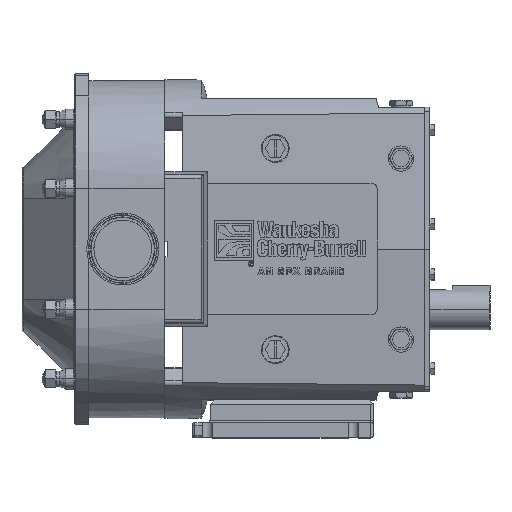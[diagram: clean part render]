
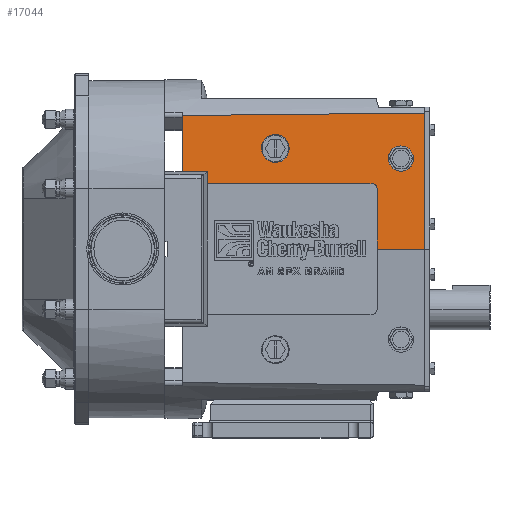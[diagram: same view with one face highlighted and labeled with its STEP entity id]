
A CAD part, top view. The second image highlights one B-rep face of the part: STEP entity #17044.
In plain terms, the highlighted planar face has unit normal (0.009, 0.07, 0.998).
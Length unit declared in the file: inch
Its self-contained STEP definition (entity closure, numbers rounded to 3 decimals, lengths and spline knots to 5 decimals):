
#301 = CARTESIAN_POINT ( 'NONE',  ( 6.19, 5., 4.09621 ) ) ;
#303 = CARTESIAN_POINT ( 'NONE',  ( 6.19, 6.38, 3.99972 ) ) ;
#305 = CARTESIAN_POINT ( 'NONE',  ( 4.81, 6.38, 4.01179 ) ) ;
#307 = CARTESIAN_POINT ( 'NONE',  ( 4.81, 5., 4.10829 ) ) ;
#312 =( BOUNDED_CURVE ( )  B_SPLINE_CURVE ( 3, ( #307, #305, #303, #301 ),
 .UNSPECIFIED., .F., .T. ) 
 B_SPLINE_CURVE_WITH_KNOTS ( ( 4, 4 ),
 ( 1.44634, 4.58793 ),
 .UNSPECIFIED. ) 
 CURVE ( )  GEOMETRIC_REPRESENTATION_ITEM ( )  RATIONAL_B_SPLINE_CURVE ( ( 1., 0.333, 0.333, 1. ) ) 
 REPRESENTATION_ITEM ( '' )  );
#319 = CARTESIAN_POINT ( 'NONE',  ( 4.81, 5., 4.10829 ) ) ;
#322 = CARTESIAN_POINT ( 'NONE',  ( 6.19, 5., 4.09621 ) ) ;
#597 = CARTESIAN_POINT ( 'NONE',  ( 11.125, 3.25, 4.17541 ) ) ;
#599 = CARTESIAN_POINT ( 'NONE',  ( 11.125, 4.5, 4.08801 ) ) ;
#600 =( BOUNDED_CURVE ( )  B_SPLINE_CURVE ( 3, ( #599, #597, #702, #700 ),
 .UNSPECIFIED., .F., .T. ) 
 B_SPLINE_CURVE_WITH_KNOTS ( ( 4, 4 ),
 ( 4.83685, 7.97844 ),
 .UNSPECIFIED. ) 
 CURVE ( )  GEOMETRIC_REPRESENTATION_ITEM ( )  RATIONAL_B_SPLINE_CURVE ( ( 1., 0.333, 0.333, 1. ) ) 
 REPRESENTATION_ITEM ( '' )  );
#602 = CARTESIAN_POINT ( 'NONE',  ( 12.375, 4.5, 4.07707 ) ) ;
#604 = CARTESIAN_POINT ( 'NONE',  ( 11.125, 4.5, 4.08801 ) ) ;
#700 = CARTESIAN_POINT ( 'NONE',  ( 12.375, 4.5, 4.07707 ) ) ;
#702 = CARTESIAN_POINT ( 'NONE',  ( 12.375, 3.25, 4.16448 ) ) ;
#1099 = CARTESIAN_POINT ( 'NONE',  ( 0.875, 6.64153, 4.02792 ) ) ;
#1182 = DIRECTION ( 'NONE',  ( 0., 0.998, -0.07 ) ) ;
#1184 = DIRECTION ( 'NONE',  ( -0.009, -0.07, -0.998 ) ) ;
#1186 = CARTESIAN_POINT ( 'NONE',  ( 0., 8., 3.94059 ) ) ;
#1188 = AXIS2_PLACEMENT_3D ( 'NONE', #1186, #1184, #1182 ) ;
#1190 = PLANE ( 'NONE',  #1188 ) ;
#1192 = FACE_OUTER_BOUND ( 'NONE', #17115, .T. ) ;
#1194 = FACE_BOUND ( 'NONE', #17048, .T. ) ;
#1196 = FACE_BOUND ( 'NONE', #17045, .T. ) ;
#1283 = CARTESIAN_POINT ( 'NONE',  ( 0.875, 3.84, 4.22383 ) ) ;
#1284 = DIRECTION ( 'NONE',  ( 0., 0.998, -0.07 ) ) ;
#1285 = VECTOR ( 'NONE', #1284, 39.37008 ) ;
#1286 = CARTESIAN_POINT ( 'NONE',  ( 0.875, 7.99947, 3.93297 ) ) ;
#1287 = LINE ( 'NONE', #1286, #1285 ) ;
#1313 = DIRECTION ( 'NONE',  ( 1., 0., -0.009 ) ) ;
#1314 = VECTOR ( 'NONE', #1313, 39.37008 ) ;
#1315 = CARTESIAN_POINT ( 'NONE',  ( 0.00254, 3.84, 4.23146 ) ) ;
#1316 = LINE ( 'NONE', #1315, #1314 ) ;
#1317 = CARTESIAN_POINT ( 'NONE',  ( 12.937, 6.7638, 3.91399 ) ) ;
#1318 = CARTESIAN_POINT ( 'NONE',  ( 8.84001, 6.72367, 3.9525 ) ) ;
#1319 = CARTESIAN_POINT ( 'NONE',  ( 4.81902, 6.68289, 3.99053 ) ) ;
#1320 = CARTESIAN_POINT ( 'NONE',  ( 0.875, 6.64153, 4.02792 ) ) ;
#1321 =( BOUNDED_CURVE ( )  B_SPLINE_CURVE ( 3, ( #1320, #1319, #1318, #1317 ),
 .UNSPECIFIED., .F., .T. ) 
 B_SPLINE_CURVE_WITH_KNOTS ( ( 4, 4 ),
 ( 0.66525, 0.69605 ),
 .UNSPECIFIED. ) 
 CURVE ( )  GEOMETRIC_REPRESENTATION_ITEM ( )  RATIONAL_B_SPLINE_CURVE ( ( 1., 1., 1., 1. ) ) 
 REPRESENTATION_ITEM ( '' )  );
#1346 = CARTESIAN_POINT ( 'NONE',  ( 2.12, 3.84, 4.21293 ) ) ;
#1358 = DIRECTION ( 'NONE',  ( 0., -0.998, 0.07 ) ) ;
#1359 = VECTOR ( 'NONE', #1358, 39.37008 ) ;
#1360 = CARTESIAN_POINT ( 'NONE',  ( 2.12, 7.99871, 3.92213 ) ) ;
#1361 = LINE ( 'NONE', #1360, #1359 ) ;
#5975 = EDGE_CURVE ( 'NONE', #16907, #16906, #22680, .T. ) ;
#5985 = VERTEX_POINT ( 'NONE', #22726 ) ;
#5989 = EDGE_CURVE ( 'NONE', #13604, #5985, #22721, .T. ) ;
#6053 = EDGE_CURVE ( 'NONE', #16829, #16832, #22777, .T. ) ;
#6071 = EDGE_CURVE ( 'NONE', #6072, #13758, #22802, .T. ) ;
#6072 = VERTEX_POINT ( 'NONE', #22804 ) ;
#13604 = VERTEX_POINT ( 'NONE', #43879 ) ;
#13756 = EDGE_CURVE ( 'NONE', #13757, #13758, #44143, .T. ) ;
#13757 = VERTEX_POINT ( 'NONE', #44139 ) ;
#13758 = VERTEX_POINT ( 'NONE', #44138 ) ;
#16519 = EDGE_CURVE ( 'NONE', #13757, #13604, #46795, .T. ) ;
#16829 = VERTEX_POINT ( 'NONE', #322 ) ;
#16832 = VERTEX_POINT ( 'NONE', #319 ) ;
#16833 = EDGE_CURVE ( 'NONE', #16832, #16829, #312, .T. ) ;
#16905 = EDGE_CURVE ( 'NONE', #16906, #16907, #600, .T. ) ;
#16906 = VERTEX_POINT ( 'NONE', #604 ) ;
#16907 = VERTEX_POINT ( 'NONE', #602 ) ;
#17034 = VERTEX_POINT ( 'NONE', #1099 ) ;
#17044 = ADVANCED_FACE ( 'NONE', ( #1196, #1194, #1192 ), #1190, .F. ) ;
#17045 = EDGE_LOOP ( 'NONE', ( #17046, #17047 ) ) ;
#17046 = ORIENTED_EDGE ( 'NONE', *, *, #16905, .F. ) ;
#17047 = ORIENTED_EDGE ( 'NONE', *, *, #5975, .F. ) ;
#17048 = EDGE_LOOP ( 'NONE', ( #17113, #17114 ) ) ;
#17084 = ORIENTED_EDGE ( 'NONE', *, *, #17151, .T. ) ;
#17087 = ORIENTED_EDGE ( 'NONE', *, *, #6071, .T. ) ;
#17105 = ORIENTED_EDGE ( 'NONE', *, *, #17106, .F. ) ;
#17106 = EDGE_CURVE ( 'NONE', #17107, #17034, #1287, .T. ) ;
#17107 = VERTEX_POINT ( 'NONE', #1283 ) ;
#17108 = ORIENTED_EDGE ( 'NONE', *, *, #17119, .T. ) ;
#17113 = ORIENTED_EDGE ( 'NONE', *, *, #16833, .T. ) ;
#17114 = ORIENTED_EDGE ( 'NONE', *, *, #6053, .T. ) ;
#17115 = EDGE_LOOP ( 'NONE', ( #17116, #17117, #17105, #17108, #17084, #17196, #17087, #17138, #17197 ) ) ;
#17116 = ORIENTED_EDGE ( 'NONE', *, *, #5989, .T. ) ;
#17117 = ORIENTED_EDGE ( 'NONE', *, *, #17118, .F. ) ;
#17118 = EDGE_CURVE ( 'NONE', #17034, #5985, #1321, .T. ) ;
#17119 = EDGE_CURVE ( 'NONE', #17107, #17131, #1316, .T. ) ;
#17131 = VERTEX_POINT ( 'NONE', #1346 ) ;
#17138 = ORIENTED_EDGE ( 'NONE', *, *, #13756, .F. ) ;
#17151 = EDGE_CURVE ( 'NONE', #17131, #40386, #1361, .T. ) ;
#17196 = ORIENTED_EDGE ( 'NONE', *, *, #40385, .F. ) ;
#17197 = ORIENTED_EDGE ( 'NONE', *, *, #16519, .T. ) ;
#22680 =( BOUNDED_CURVE ( )  B_SPLINE_CURVE ( 3, ( #22731, #22730, #22729, #22728 ),
 .UNSPECIFIED., .F., .T. ) 
 B_SPLINE_CURVE_WITH_KNOTS ( ( 4, 4 ),
 ( 1.69525, 4.83685 ),
 .UNSPECIFIED. ) 
 CURVE ( )  GEOMETRIC_REPRESENTATION_ITEM ( )  RATIONAL_B_SPLINE_CURVE ( ( 1., 0.333, 0.333, 1. ) ) 
 REPRESENTATION_ITEM ( '' )  );
#22716 = CARTESIAN_POINT ( 'NONE',  ( 12.937, 6.7638, 3.91399 ) ) ;
#22717 = CARTESIAN_POINT ( 'NONE',  ( 12.937, 4.50924, 4.07151 ) ) ;
#22718 = CARTESIAN_POINT ( 'NONE',  ( 12.937, 2.25462, 4.22917 ) ) ;
#22719 = CARTESIAN_POINT ( 'NONE',  ( 12.937, 0., 4.38691 ) ) ;
#22721 = B_SPLINE_CURVE_WITH_KNOTS ( 'NONE', 3,
 ( #22719, #22718, #22717, #22716 ),
 .UNSPECIFIED., .F., .F.,
 ( 4, 4 ),
 ( 0., 1. ),
 .UNSPECIFIED. ) ;
#22726 = CARTESIAN_POINT ( 'NONE',  ( 12.937, 6.7638, 3.91399 ) ) ;
#22728 = CARTESIAN_POINT ( 'NONE',  ( 11.125, 4.5, 4.08801 ) ) ;
#22729 = CARTESIAN_POINT ( 'NONE',  ( 11.125, 5.75, 4.0006 ) ) ;
#22730 = CARTESIAN_POINT ( 'NONE',  ( 12.375, 5.75, 3.98966 ) ) ;
#22731 = CARTESIAN_POINT ( 'NONE',  ( 12.375, 4.5, 4.07707 ) ) ;
#22773 = CARTESIAN_POINT ( 'NONE',  ( 4.81, 5., 4.10829 ) ) ;
#22774 = CARTESIAN_POINT ( 'NONE',  ( 4.81, 3.62, 4.20479 ) ) ;
#22775 = CARTESIAN_POINT ( 'NONE',  ( 6.19, 3.62, 4.19271 ) ) ;
#22776 = CARTESIAN_POINT ( 'NONE',  ( 6.19, 5., 4.09621 ) ) ;
#22777 =( BOUNDED_CURVE ( )  B_SPLINE_CURVE ( 3, ( #22776, #22775, #22774, #22773 ),
 .UNSPECIFIED., .F., .T. ) 
 B_SPLINE_CURVE_WITH_KNOTS ( ( 4, 4 ),
 ( 4.58793, 7.72952 ),
 .UNSPECIFIED. ) 
 CURVE ( )  GEOMETRIC_REPRESENTATION_ITEM ( )  RATIONAL_B_SPLINE_CURVE ( ( 1., 0.333, 0.333, 1. ) ) 
 REPRESENTATION_ITEM ( '' )  );
#22798 = CARTESIAN_POINT ( 'NONE',  ( 10.56, 3., 4.19784 ) ) ;
#22799 = CARTESIAN_POINT ( 'NONE',  ( 10.56, 3.14645, 4.1876 ) ) ;
#22800 = CARTESIAN_POINT ( 'NONE',  ( 10.45645, 3.25, 4.18126 ) ) ;
#22801 = CARTESIAN_POINT ( 'NONE',  ( 10.31, 3.25, 4.18254 ) ) ;
#22802 =( BOUNDED_CURVE ( )  B_SPLINE_CURVE ( 3, ( #22801, #22800, #22799, #22798 ),
 .UNSPECIFIED., .F., .T. ) 
 B_SPLINE_CURVE_WITH_KNOTS ( ( 4, 4 ),
 ( 3.01713, 4.58793 ),
 .UNSPECIFIED. ) 
 CURVE ( )  GEOMETRIC_REPRESENTATION_ITEM ( )  RATIONAL_B_SPLINE_CURVE ( ( 1., 0.805, 0.805, 1. ) ) 
 REPRESENTATION_ITEM ( '' )  );
#22804 = CARTESIAN_POINT ( 'NONE',  ( 10.31, 3.25, 4.18254 ) ) ;
#31734 = CARTESIAN_POINT ( 'NONE',  ( 2.12, 3.25, 4.25419 ) ) ;
#31735 = DIRECTION ( 'NONE',  ( -1., 0., 0.009 ) ) ;
#31736 = VECTOR ( 'NONE', #31735, 39.37008 ) ;
#31737 = CARTESIAN_POINT ( 'NONE',  ( 182.79162, 3.25, 2.67364 ) ) ;
#31738 = LINE ( 'NONE', #31737, #31736 ) ;
#40385 = EDGE_CURVE ( 'NONE', #6072, #40386, #31738, .T. ) ;
#40386 = VERTEX_POINT ( 'NONE', #31734 ) ;
#43879 = CARTESIAN_POINT ( 'NONE',  ( 12.937, 0., 4.38691 ) ) ;
#44138 = CARTESIAN_POINT ( 'NONE',  ( 10.56, 3., 4.19784 ) ) ;
#44139 = CARTESIAN_POINT ( 'NONE',  ( 10.56, 0., 4.40762 ) ) ;
#44140 = DIRECTION ( 'NONE',  ( 0., 0.998, -0.07 ) ) ;
#44141 = VECTOR ( 'NONE', #44140, 39.37008 ) ;
#44142 = CARTESIAN_POINT ( 'NONE',  ( 10.56, 1366.88651, -91.1744 ) ) ;
#44143 = LINE ( 'NONE', #44142, #44141 ) ;
#46789 = DIRECTION ( 'NONE',  ( 1., 0., -0.009 ) ) ;
#46791 = VECTOR ( 'NONE', #46789, 39.37008 ) ;
#46793 = CARTESIAN_POINT ( 'NONE',  ( 0.00489, 0., 4.49996 ) ) ;
#46795 = LINE ( 'NONE', #46793, #46791 ) ;
